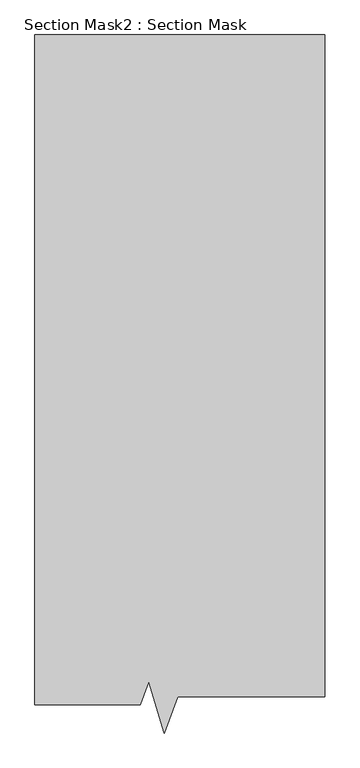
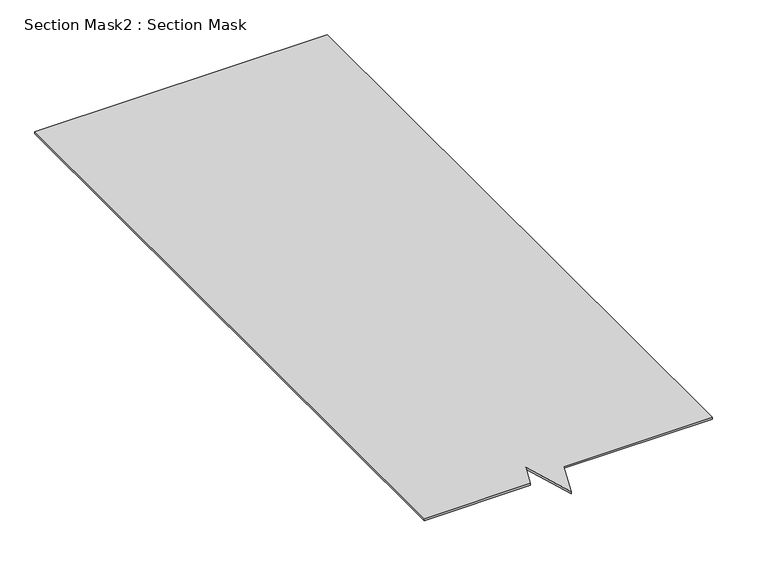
"""IFC4 building model written with IfcOpenShell, lengths in millimetres: proxy geometry, Section Mask2 : Section Mask."""

import ifcopenshell
import ifcopenshell.guid

model = None  # the IFC model being written
_history = None  # IfcOwnerHistory: only IFC2X3 demands one
_inside = {}  # id of a spatial element -> (the spatial element, [elements in it])
_under = {}  # id of a project, library or spatial element -> (it, [spatial elements below it])
_declared = {}  # id of a project -> (the project, [libraries it declares])
_typed = {}  # id of a type object -> (the type object, [elements of that type])
_made_of = {}  # id of a material, layer set ... -> (it, [elements and type objects made of it])


def new_model(schema):
    """Start an empty IFC model of exactly this schema.

    Asked for "IFC4X3", IfcOpenShell would pick the latest addendum, in which some entities
    have other attributes; the version numbers below select the first issue.
    IFC2X3 requires an IfcOwnerHistory on every rooted entity: one is made here for all.
    """
    global model, _history
    if schema == "IFC4X3":
        model = ifcopenshell.file(schema_version=(4, 3, 0, 0))
    else:
        model = ifcopenshell.file(schema=schema)
    _inside.clear()
    _under.clear()
    _declared.clear()
    _typed.clear()
    _made_of.clear()
    _history = None
    if model.schema == "IFC2X3":
        org = make("IfcOrganization", Name="unknown")
        user = make(
            "IfcPersonAndOrganization",
            ThePerson=make("IfcPerson", FamilyName="unknown"),
            TheOrganization=org,
        )
        app = make(
            "IfcApplication",
            ApplicationDeveloper=org,
            Version="unknown",
            ApplicationFullName="unknown",
            ApplicationIdentifier="unknown",
        )
        _history = make(
            "IfcOwnerHistory",
            OwningUser=user,
            OwningApplication=app,
            ChangeAction="ADDED",
            CreationDate=0,
        )
    return model


def make(cls, **values):
    """One entity of the class cls with the attributes given. An attribute that is None is left unset."""
    return model.create_entity(
        cls, **{name: value for name, value in values.items() if value is not None}
    )


def rooted(cls, **values):
    """An entity with a GlobalId (a new one), such as an element, a storey or a relation."""
    return make(cls, GlobalId=ifcopenshell.guid.new(), OwnerHistory=_history, **values)


def si_unit(unit_type, name, prefix=None):
    """IfcSIUnit, for example si_unit("LENGTHUNIT", "METRE", prefix="MILLI")."""
    return make("IfcSIUnit", UnitType=unit_type, Prefix=prefix, Name=name)


def assignment(units):
    """IfcUnitAssignment: the units of a project."""
    return None if units is None else make("IfcUnitAssignment", Units=units)


def point(xyz):
    """IfcCartesianPoint."""
    return None if xyz is None else make("IfcCartesianPoint", Coordinates=xyz)


def direction(xyz):
    """IfcDirection."""
    return None if xyz is None else make("IfcDirection", DirectionRatios=xyz)


def frame(location, z_axis=None, x_axis=None):
    """IfcAxis2Placement3D, a coordinate frame: its origin and axes. An axis left out is left unset."""
    return make(
        "IfcAxis2Placement3D",
        Location=point(location),
        Axis=direction(z_axis),
        RefDirection=direction(x_axis),
    )


def origin():
    """The frame at (0, 0, 0) with its axes left unset."""
    return frame((0.0, 0.0, 0.0))


def place(relative_to, where):
    """IfcLocalPlacement: puts the frame where relative to a parent placement (None: the world)."""
    return make(
        "IfcLocalPlacement", PlacementRelTo=relative_to, RelativePlacement=where
    )


def context(
    kind, dimensions, precision=None, world=None, true_north=None, identifier=None
):
    """IfcGeometricRepresentationContext, for example the 3D "Model" context."""
    return make(
        "IfcGeometricRepresentationContext",
        ContextIdentifier=identifier,
        ContextType=kind,
        CoordinateSpaceDimension=dimensions,
        Precision=precision,
        WorldCoordinateSystem=world,
        TrueNorth=true_north,
    )


def project(units=None, contexts=None):
    """IfcProject with its units and contexts."""
    return rooted(
        "IfcProject",
        Name="project",
        RepresentationContexts=contexts,
        UnitsInContext=assignment(units),
    )


def spatial(cls, under=None, at=None, **own):
    """A site, building, storey or space (cls), placed at a placement, below another one or the project."""
    s = rooted(cls, ObjectPlacement=at, **own)
    if under is not None:
        _under.setdefault(under.id(), (under, []))[1].append(s)
    return s


def polyline(points):
    """IfcPolyline through the points."""
    return make("IfcPolyline", Points=[point(p) for p in points])


def outline(outer, holes=None, kind="AREA"):
    """IfcArbitraryClosedProfileDef: a profile drawn as a closed curve; with holes, ...WithVoids."""
    if holes is None:
        return make("IfcArbitraryClosedProfileDef", ProfileType=kind, OuterCurve=outer)
    return make(
        "IfcArbitraryProfileDefWithVoids",
        ProfileType=kind,
        OuterCurve=outer,
        InnerCurves=holes,
    )


def extrude(swept, where, along, depth):
    """IfcExtrudedAreaSolid: the profile swept, set in the frame where, extruded along a direction by depth."""
    return make(
        "IfcExtrudedAreaSolid",
        SweptArea=swept,
        Position=where,
        ExtrudedDirection=direction(along),
        Depth=depth,
    )


def shape(context_of_items, identifier, shape_type, items):
    """IfcShapeRepresentation: the items that make up one representation, for example the "Body"."""
    return make(
        "IfcShapeRepresentation",
        ContextOfItems=context_of_items,
        RepresentationIdentifier=identifier,
        RepresentationType=shape_type,
        Items=items,
    )


def source(mapping_origin, context_of_items, identifier, shape_type, items):
    """IfcRepresentationMap: a shape defined once, which mapped items show again and again."""
    return make(
        "IfcRepresentationMap",
        MappingOrigin=mapping_origin,
        MappedRepresentation=shape(context_of_items, identifier, shape_type, items),
    )


def transform(
    local_origin,
    x_axis=None,
    y_axis=None,
    z_axis=None,
    scale=None,
    scale2=None,
    scale3=None,
    uniform=True,
):
    """IfcCartesianTransformationOperator3D, or its non-uniform kind. x_axis, y_axis, z_axis: its Axis1, 2, 3."""
    if uniform:
        return make(
            "IfcCartesianTransformationOperator3D",
            Axis1=direction(x_axis),
            Axis2=direction(y_axis),
            LocalOrigin=point(local_origin),
            Scale=scale,
            Axis3=direction(z_axis),
        )
    return make(
        "IfcCartesianTransformationOperator3DnonUniform",
        Axis1=direction(x_axis),
        Axis2=direction(y_axis),
        LocalOrigin=point(local_origin),
        Scale=scale,
        Axis3=direction(z_axis),
        Scale2=scale2,
        Scale3=scale3,
    )


def mapped(mapping_source, mapping_target):
    """IfcMappedItem: shows the shape of a source again, moved by a transform."""
    return make(
        "IfcMappedItem", MappingSource=mapping_source, MappingTarget=mapping_target
    )


def made_of(thing, what):
    """Note that an element or type object is made of a material, layer set ...; save() writes the relation."""
    if what is not None:
        _made_of.setdefault(what.id(), (what, []))[1].append(thing)
    return thing


def element(
    cls,
    number,
    at=None,
    inside=None,
    cuts=None,
    type_object=None,
    material=None,
    context=None,
    identifier="Body",
    shape_type=None,
    held_by="IfcProductDefinitionShape",
    body=None,
    shapes=None,
    **own,
):
    """One element of the class cls, such as IfcWall. Its Tag is "e" and its number.

    at: its placement. inside: the storey or other place that contains it. cuts: it is an
    opening in that element (IfcRelVoidsElement). A single representation is given by context,
    identifier, shape_type and body (its items); several are given by shapes. held_by: the class
    of the entity that holds the representations. save() writes the other relations.
    """
    e = rooted(cls, Tag="e%d" % number, ObjectPlacement=at, **own)
    if body is not None:
        shapes = [shape(context, identifier, shape_type, body)]
    if shapes is not None:
        e.Representation = make(held_by, Representations=shapes)
    if inside is not None:
        _inside.setdefault(inside.id(), (inside, []))[1].append(e)
    if cuts is not None:
        rooted(
            "IfcRelVoidsElement", RelatingBuildingElement=cuts, RelatedOpeningElement=e
        )
    if type_object is not None:
        _typed.setdefault(type_object.id(), (type_object, []))[1].append(e)
    return made_of(e, material)


def aggregate(whole, parts):
    """IfcRelAggregates: a whole, such as a stair, and the parts it consists of."""
    return rooted("IfcRelAggregates", RelatingObject=whole, RelatedObjects=parts)


def save(model, path):
    """Write the relations noted so far, then the file.

    IfcRelAggregates (storeys below a building ...), IfcRelContainedInSpatialStructure (elements
    in a storey), IfcRelDefinesByType, IfcRelAssociatesMaterial and IfcRelDeclares: one each for
    every whole, place, type object, material and project.
    """
    for whole, parts in _under.values():
        aggregate(whole, parts)
    for where, things in _inside.values():
        rooted(
            "IfcRelContainedInSpatialStructure",
            RelatedElements=things,
            RelatingStructure=where,
        )
    for kind, things in _typed.values():
        rooted("IfcRelDefinesByType", RelatedObjects=things, RelatingType=kind)
    for what, things in _made_of.values():
        rooted("IfcRelAssociatesMaterial", RelatedObjects=things, RelatingMaterial=what)
    for by, libraries in _declared.values():
        rooted("IfcRelDeclares", RelatingContext=by, RelatedDefinitions=libraries)
    model.write(path)


def section_mask2_section_mask_046a2748(model_context):
    return source(origin(), model_context, "Body", "SweptSolid", [
        extrude(outline(polyline([(8124.664325, 631.273934), (7836.242713, 631.273934), (7836.242713, 2465.4614947), (8630.6570669, 2465.4614947), (8630.6570669, 652.1224056), (8227.2982256, 652.1224056), (8190.6813689, 552.9595639), (8147.6812645, 693.6065681), (8124.664325, 631.273934)])), frame((0.0, 0.0, 45.0273345), z_axis=(0.0, 0.0, 1.0), x_axis=(1.0, 0.0, 0.0)), (0.0, 0.0, 1.0), 5.6926241),
    ])


if __name__ == "__main__":
    model = new_model("IFC4")
    model_context = context("Model", 3, world=origin())
    ifc_project = project(units=[si_unit("LENGTHUNIT", "METRE", prefix="MILLI")], contexts=[model_context])
    site = spatial("IfcSite", under=ifc_project)
    building = spatial("IfcBuilding", under=site)
    placement = place(None, origin())
    section_mask2_section_mask_shape = section_mask2_section_mask_046a2748(model_context)
    element("IfcBuildingElementProxy", 1, Name="Section Mask2 : Section Mask", ObjectType="Section Mask2 : Section Mask", at=placement, inside=building, context=model_context, shape_type="MappedRepresentation", body=[
        mapped(section_mask2_section_mask_shape, transform((0.0, 0.0, 0.0), x_axis=(1.0, 0.0, 0.0), y_axis=(0.0, 1.0, 0.0), z_axis=(0.0, 0.0, 1.0))),
    ])
    save(model, "model.ifc")
